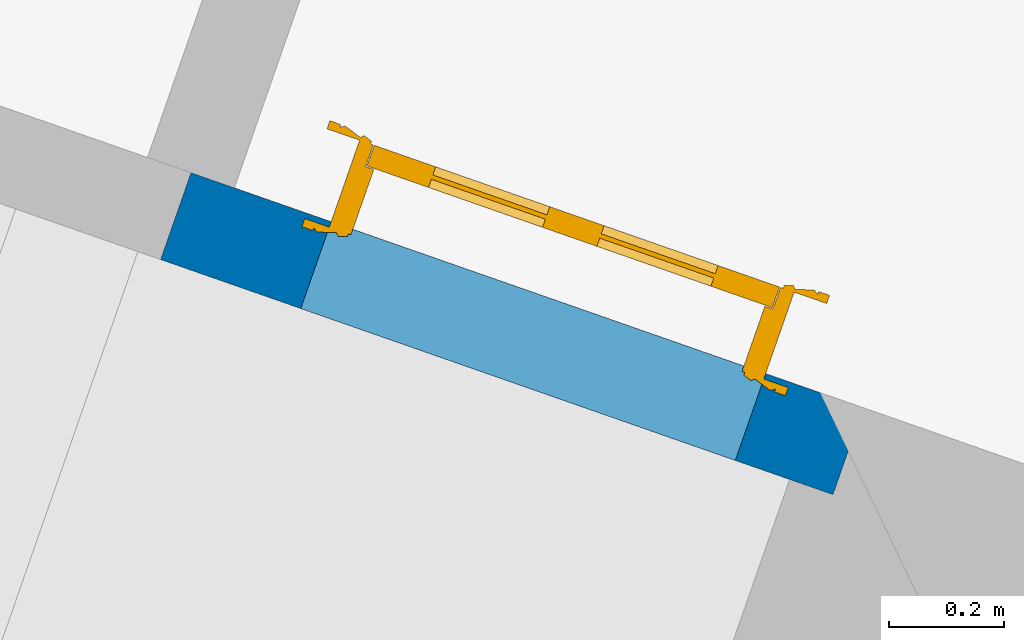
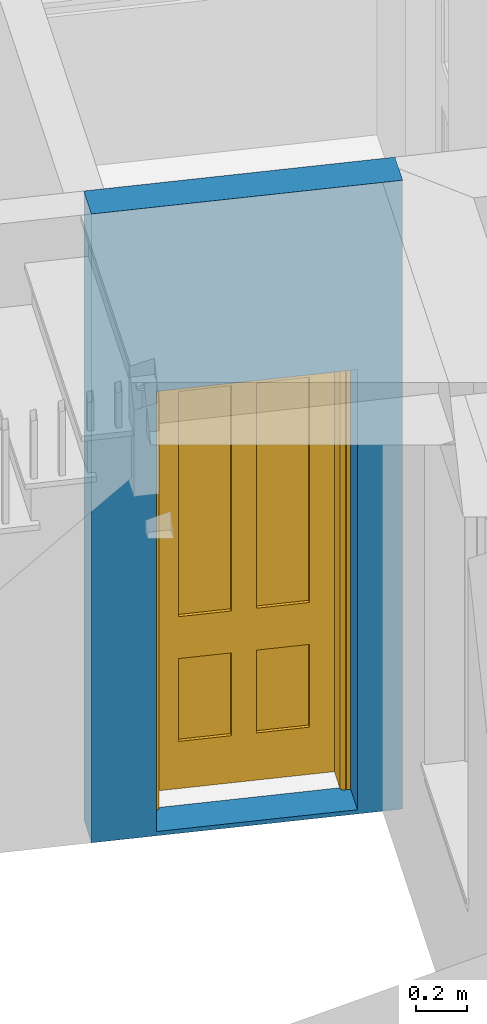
# One storey, part 3 of 6: 1 door, 1 wall, 1 opening.
"""IFC4 building model written with IfcOpenShell, lengths in metres."""

from ifc_helpers import new_model, si_unit, frame, origin, origin_with_axes, place, context, subcontext, project, spatial, polyline, outline, extrude, faceted_brep, source, transform, mapped, material, layer, layer_set, layer_usage, type_object, type_shapes, element, fill, save


model = new_model("IFC4")

# Units and contexts
model_context = context("Model", 3, world=origin_with_axes())
body_context = subcontext(model_context, "Body", "Model", "MODEL_VIEW")
ifc_project = project(units=[si_unit("PLANEANGLEUNIT", "RADIAN"), si_unit("MASSUNIT", "GRAM", prefix="KILO"), si_unit("FORCEUNIT", "NEWTON", prefix="KILO"), si_unit("LENGTHUNIT", "METRE"), si_unit("AREAUNIT", "SQUARE_METRE"), si_unit("VOLUMEUNIT", "CUBIC_METRE")], contexts=[model_context, model_context])

# Sites, building, storey
site_1_placement = place(None, origin_with_axes())
site_1 = spatial("IfcSite", under=ifc_project, at=site_1_placement, Name="Tamar")
site_2_placement = place(site_1_placement, origin_with_axes())
site_2 = spatial("IfcSite", under=site_1, at=site_2_placement, Name="Site plot-15", CompositionType="ELEMENT")
building_placement = place(None, origin_with_axes())
building = spatial("IfcBuilding", under=site_2, at=building_placement, Name="Building plot-15", CompositionType="ELEMENT")
storey_placement = place(None, frame((0.0, 0.0, 29.95), z_axis=(0.0, 0.0, 1.0), x_axis=(1.0, 0.0, 0.0)))
storey = spatial("IfcBuildingStorey", under=building, at=storey_placement, Name="plot-15 1", CompositionType="ELEMENT", Elevation=29.95)

# Wall, opening, door
ifc_material = material(Name="Masonry")
ifc_layer = layer(ifc_material, 0.16, ventilated=False)
ifc_layer_set = layer_set([ifc_layer], Name="interior_0.08_0.08")
ifc_layer_usage = layer_usage(ifc_layer_set, "AXIS2", "POSITIVE", -0.08)
wall_type = type_object("IfcWallType", Name="interior_0.08_0.08", PredefinedType="SOLIDWALL", material=ifc_layer_set)
wall_placement = place(storey_placement, frame((260.340339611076, 305.657992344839, 0.0), z_axis=(0.0, 0.0, 1.0), x_axis=(0.94398045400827, -0.330001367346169, 0.0)))
wall = element("IfcWall", 1, at=wall_placement, inside=storey, type_object=wall_type, material=ifc_layer_usage, Name="interior", context=body_context, shape_type="SweptSolid", body=[
    extrude(outline(polyline([(-4.09848571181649e-15, 0.0799999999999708), (4.10645210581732e-15, -0.0799999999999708), (1.23814757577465, -0.0799999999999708), (1.23814757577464, 0.0799999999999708), (-4.09848571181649e-15, 0.0799999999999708)])), origin_with_axes(), (0.0, 0.0, 1.0), 3.0),
])
opening_placement = place(wall_placement, frame((0.258147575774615, 0.0, 0.0199999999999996)))
opening = element("IfcOpeningElement", 2, at=opening_placement, cuts=wall, Name="My Opening", ObjectType="Opening", context=body_context, shape_type="SweptSolid", body=[
    extrude(outline(polyline([(0.0, -0.100000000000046), (0.800000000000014, -0.100000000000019), (0.800000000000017, 1.10000000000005), (2.99760216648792e-15, 1.10000000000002), (0.0, -0.100000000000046)])), origin_with_axes(), (0.0, 0.0, 1.0), 2.1),
])
door_type = type_object("IfcDoorType", Name="door_inside", OperationType="SINGLE_SWING_LEFT", PredefinedType="NOTDEFINED")
shared_shape = source(origin(), body_context, "Body", "Brep", [
    faceted_brep([(0.773, 0.33, 1.895), (0.66, 0.33, 1.895), (0.66, 0.33, 2.073), (0.773, 0.33, 2.073), (0.773, 0.33, 0.82), (0.66, 0.33, 0.82), (0.45, 0.33, 1.895), (0.45, 0.33, 2.073), (0.773, 0.33, 0.62), (0.66, 0.33, 0.62), (0.66, 0.315, 0.82), (0.66, 0.315, 1.895), (0.45, 0.315, 1.895), (0.35, 0.33, 1.895), (0.35, 0.33, 2.073), (0.773, 0.33, 0.225), (0.66, 0.33, 0.225), (0.45, 0.33, 0.62), (0.45, 0.33, 0.82), (0.45, 0.315, 0.82), (0.35, 0.33, 0.82), (0.14, 0.33, 2.073), (0.14, 0.33, 1.895), (0.773, 0.33, 0.0), (0.66, 0.33, 0.0), (0.66, 0.315, 0.225), (0.66, 0.315, 0.62), (0.45, 0.315, 0.62), (0.35, 0.33, 0.62), (0.35, 0.315, 0.82), (0.35, 0.315, 1.895), (0.14, 0.315, 1.895), (0.027, 0.33, 2.073), (0.027, 0.33, 1.895), (0.773, 0.292, 0.0), (0.66, 0.292, 0.0), (0.45, 0.33, 0.0), (0.45, 0.33, 0.225), (0.45, 0.315, 0.225), (0.35, 0.33, 0.225), (0.14, 0.33, 0.82), (0.14, 0.33, 0.62), (0.14, 0.315, 0.82), (0.027, 0.33, 0.82), (0.773, 0.292, 0.225), (0.66, 0.292, 0.225), (0.45, 0.292, 0.0), (0.35, 0.33, 0.0), (0.35, 0.315, 0.225), (0.35, 0.315, 0.62), (0.14, 0.315, 0.62), (0.027, 0.33, 0.62), (0.773, 0.292, 0.62), (0.66, 0.292, 0.62), (0.45, 0.292, 0.225), (0.35, 0.292, 0.0), (0.14, 0.33, 0.225), (0.14, 0.33, 0.0), (0.14, 0.315, 0.225), (0.027, 0.33, 0.225), (0.773, 0.292, 0.82), (0.66, 0.292, 0.82), (0.66, 0.307, 0.62), (0.66, 0.307, 0.225), (0.45, 0.307, 0.225), (0.35, 0.292, 0.225), (0.14, 0.292, 0.0), (0.027, 0.33, 0.0), (0.773, 0.292, 1.895), (0.66, 0.292, 1.895), (0.45, 0.292, 0.62), (0.45, 0.292, 0.82), (0.45, 0.307, 0.62), (0.35, 0.292, 0.62), (0.14, 0.292, 0.225), (0.027, 0.292, 0.0), (0.773, 0.292, 2.073), (0.66, 0.292, 2.073), (0.66, 0.307, 1.895), (0.66, 0.307, 0.82), (0.45, 0.307, 0.82), (0.35, 0.292, 0.82), (0.35, 0.307, 0.62), (0.35, 0.307, 0.225), (0.14, 0.307, 0.225), (0.027, 0.292, 0.225), (0.45, 0.292, 1.895), (0.45, 0.292, 2.073), (0.45, 0.307, 1.895), (0.35, 0.292, 1.895), (0.14, 0.292, 0.82), (0.14, 0.292, 0.62), (0.14, 0.307, 0.62), (0.027, 0.292, 0.62), (0.35, 0.292, 2.073), (0.35, 0.307, 1.895), (0.35, 0.307, 0.82), (0.14, 0.307, 0.82), (0.027, 0.292, 0.82), (0.14, 0.292, 2.073), (0.14, 0.292, 1.895), (0.14, 0.307, 1.895), (0.027, 0.292, 1.895), (0.027, 0.292, 2.073), (0.02, 0.335, 0.0), (0.005, 0.34, 0.0), (0.005, 0.34, 2.095), (0.02, 0.335, 2.08), (0.02, 0.33, 0.0), (0.0, 0.335, 0.0), (0.0, 0.335, 2.1), (0.795, 0.34, 2.095), (0.78, 0.335, 2.08), (0.02, 0.33, 2.08), (0.0, 0.33, 0.0), (-0.032, 0.345, 0.0), (-0.032, 0.345, 2.132), (0.8, 0.335, 2.1), (0.795, 0.34, 0.0), (0.78, 0.335, 0.0), (0.78, 0.33, 2.08), (0.04, 0.29, 0.0), (0.025, 0.29, 0.0), (0.025, 0.29, 2.075), (0.04, 0.29, 2.06), (-0.04, 0.34, 0.0), (-0.04, 0.34, 2.14), (0.832, 0.345, 2.132), (0.8, 0.335, 0.0), (0.78, 0.33, 0.0), (0.8, 0.33, 0.0), (0.86, 0.33, 0.0), (0.86, 0.33, 2.16), (0.8, 0.33, 2.1), (-0.06, 0.33, 2.16), (0.0, 0.33, 2.1), (-0.06, 0.33, 0.0), (-0.04, 0.345, 0.0), (-0.04, 0.345, 2.14), (0.84, 0.34, 2.14), (0.832, 0.345, 0.0), (0.84, 0.34, 0.0), (0.86, 0.345, 0.0), (0.86, 0.345, 2.16), (-0.06, 0.345, 2.16), (-0.06, 0.345, 0.0), (0.84, 0.345, 0.0), (0.84, 0.345, 2.14), (-0.025, 0.155, 0.0), (-0.025, 0.16, 0.0), (-0.025, 0.16, 2.125), (-0.025, 0.155, 2.125), (-0.017, 0.155, 0.0), (-0.017, 0.155, 2.117), (0.825, 0.16, 2.125), (0.825, 0.155, 2.125), (0.825, 0.155, 0.0), (0.845, 0.155, 0.0), (-0.045, 0.155, 2.145), (-0.045, 0.155, 0.0), (0.845, 0.155, 2.145), (0.015, 0.165, 0.0), (0.015, 0.165, 2.085), (0.817, 0.155, 2.117), (0.825, 0.16, 0.0), (0.845, 0.17, 0.0), (0.845, 0.17, 2.145), (-0.045, 0.17, 2.145), (-0.045, 0.17, 0.0), (0.02, 0.16, 0.0), (0.02, 0.16, 2.08), (0.785, 0.165, 2.085), (0.817, 0.155, 0.0), (0.8, 0.17, 0.0), (0.8, 0.17, 2.1), (0.0, 0.17, 2.1), (0.0, 0.17, 0.0), (0.035, 0.165, 0.0), (0.035, 0.165, 2.065), (0.78, 0.16, 2.08), (0.785, 0.165, 0.0), (0.775, 0.29, 2.075), (0.76, 0.29, 2.06), (0.035, 0.17, 2.065), (0.035, 0.17, 0.0), (0.765, 0.165, 2.065), (0.78, 0.16, 0.0), (0.765, 0.17, 0.0), (0.765, 0.17, 2.065), (0.765, 0.165, 0.0), (0.04, 0.17, 2.06), (0.04, 0.17, 0.0), (0.76, 0.17, 2.06), (0.76, 0.17, 0.0), (0.76, 0.29, 0.0), (0.775, 0.29, 0.0), (0.025, 0.33, 0.0), (0.025, 0.33, 2.075), (0.775, 0.33, 0.0), (0.775, 0.33, 2.075)], [[[0, 1, 2, 3]], [[1, 0, 4, 5]], [[1, 6, 7, 2]], [[8, 9, 5, 4]], [[1, 5, 10, 11]], [[6, 1, 11, 12]], [[6, 13, 14, 7]], [[15, 16, 9, 8]], [[9, 17, 18, 5]], [[5, 18, 19, 10]], [[10, 19, 12, 11]], [[18, 6, 12, 19]], [[18, 20, 13, 6]], [[21, 14, 13, 22]], [[23, 24, 16, 15]], [[9, 16, 25, 26]], [[17, 9, 26, 27]], [[17, 28, 20, 18]], [[13, 20, 29, 30]], [[22, 13, 30, 31]], [[32, 21, 22, 33]], [[34, 35, 24, 23]], [[24, 36, 37, 16]], [[16, 37, 38, 25]], [[25, 38, 27, 26]], [[37, 17, 27, 38]], [[37, 39, 28, 17]], [[40, 20, 28, 41]], [[20, 40, 42, 29]], [[31, 30, 29, 42]], [[40, 22, 31, 42]], [[33, 22, 40, 43]], [[35, 34, 44, 45]], [[35, 46, 36, 24]], [[36, 47, 39, 37]], [[28, 39, 48, 49]], [[41, 28, 49, 50]], [[43, 40, 41, 51]], [[45, 44, 52, 53]], [[46, 35, 45, 54]], [[46, 55, 47, 36]], [[56, 39, 47, 57]], [[39, 56, 58, 48]], [[50, 49, 48, 58]], [[56, 41, 50, 58]], [[51, 41, 56, 59]], [[53, 52, 60, 61]], [[45, 53, 62, 63]], [[54, 45, 63, 64]], [[55, 46, 54, 65]], [[55, 66, 57, 47]], [[59, 56, 57, 67]], [[61, 60, 68, 69]], [[70, 53, 61, 71]], [[53, 70, 72, 62]], [[72, 64, 63, 62]], [[70, 54, 64, 72]], [[65, 54, 70, 73]], [[65, 74, 66, 55]], [[67, 57, 66, 75]], [[69, 68, 76, 77]], [[61, 69, 78, 79]], [[71, 61, 79, 80]], [[73, 70, 71, 81]], [[65, 73, 82, 83]], [[74, 65, 83, 84]], [[74, 85, 75, 66]], [[86, 69, 77, 87]], [[69, 86, 88, 78]], [[88, 80, 79, 78]], [[86, 71, 80, 88]], [[81, 71, 86, 89]], [[73, 81, 90, 91]], [[73, 91, 92, 82]], [[83, 82, 92, 84]], [[91, 74, 84, 92]], [[91, 93, 85, 74]], [[89, 86, 87, 94]], [[81, 89, 95, 96]], [[90, 81, 96, 97]], [[90, 98, 93, 91]], [[94, 99, 100, 89]], [[89, 100, 101, 95]], [[101, 97, 96, 95]], [[100, 90, 97, 101]], [[100, 102, 98, 90]], [[99, 103, 102, 100]], [[32, 103, 99, 21]], [[102, 103, 32, 33]], [[98, 102, 33, 43]], [[21, 99, 94, 14]], [[94, 87, 7, 14]], [[7, 87, 77, 2]], [[76, 3, 2, 77]], [[43, 51, 93, 98]], [[51, 59, 85, 93]], [[67, 75, 85, 59]], [[34, 23, 15, 44]], [[44, 15, 8, 52]], [[52, 8, 4, 60]], [[0, 68, 60, 4]], [[0, 3, 76, 68]], [[104, 105, 106, 107]], [[104, 108, 109, 105]], [[105, 109, 110, 106]], [[107, 106, 111, 112]], [[107, 113, 108, 104]], [[114, 109, 108]], [[109, 115, 116, 110]], [[106, 110, 117, 111]], [[112, 111, 118, 119]], [[113, 107, 112, 120]], [[121, 122, 123, 124]], [[115, 109, 114, 125]], [[115, 125, 126, 116]], [[110, 116, 127, 117]], [[111, 117, 128, 118]], [[118, 128, 129, 119]], [[120, 112, 119, 129]], [[130, 129, 128]], [[130, 131, 132, 133]], [[133, 132, 134, 135]], [[135, 134, 136, 114]], [[136, 125, 114]], [[125, 137, 138, 126]], [[116, 126, 139, 127]], [[117, 127, 140, 128]], [[141, 130, 128, 140]], [[131, 130, 141]], [[131, 142, 143, 132]], [[132, 143, 144, 134]], [[134, 144, 145, 136]], [[137, 125, 136, 145]], [[143, 142, 146]], [[143, 146, 147]], [[137, 145, 144]], [[143, 147, 138]], [[138, 137, 144]], [[143, 138, 144]], [[126, 138, 147, 139]], [[127, 139, 141, 140]], [[142, 131, 141, 146]], [[139, 147, 146, 141]], [[148, 149, 150, 151]], [[149, 152, 153, 150]], [[151, 150, 154, 155]], [[155, 156, 157]], [[158, 159, 148]], [[158, 148, 151]], [[155, 157, 160]], [[158, 151, 155]], [[155, 160, 158]], [[152, 161, 162, 153]], [[150, 153, 163, 154]], [[155, 154, 164, 156]], [[156, 164, 165, 157]], [[157, 165, 166, 160]], [[160, 166, 167, 158]], [[158, 167, 168, 159]], [[161, 169, 170, 162]], [[153, 162, 171, 163]], [[154, 163, 172, 164]], [[165, 164, 173]], [[165, 173, 174, 166]], [[166, 174, 175, 167]], [[167, 175, 176, 168]], [[169, 177, 178, 170]], [[162, 170, 179, 171]], [[163, 171, 180, 172]], [[172, 180, 173, 164]], [[124, 123, 181, 182]], [[183, 178, 177, 184]], [[170, 178, 185, 179]], [[171, 179, 186, 180]], [[187, 173, 180]], [[185, 188, 187, 189]], [[188, 185, 178, 183]], [[179, 185, 189, 186]], [[189, 187, 180, 186]], [[190, 183, 184, 191]], [[192, 188, 183, 190]], [[191, 184, 122, 121]], [[124, 190, 191, 121]], [[193, 187, 188, 192]], [[182, 192, 190, 124]], [[184, 176, 122]], [[194, 195, 187, 193]], [[192, 182, 194, 193]], [[161, 176, 184]], [[114, 108, 122, 176]], [[173, 187, 195]], [[152, 149, 176, 161]], [[169, 161, 184, 177]], [[196, 122, 108]], [[176, 175, 135, 114]], [[173, 195, 129, 130]], [[176, 149, 168]], [[123, 122, 196, 197]], [[196, 108, 113, 197]], [[175, 174, 133, 135]], [[198, 129, 195]], [[133, 174, 173, 130]], [[159, 168, 149, 148]], [[181, 123, 197, 199]], [[197, 113, 120, 199]], [[199, 120, 129, 198]], [[195, 181, 199, 198]], [[195, 194, 182, 181]]]),
])
type_shapes(door_type, [shared_shape])
door_placement = place(storey_placement, frame((260.551025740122, 305.478405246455, 0.0199999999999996), z_axis=(0.0, 0.0, 1.0), x_axis=(0.755184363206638, -0.264001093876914, 0.0)))
door = element("IfcDoor", 3, at=door_placement, inside=storey, type_object=door_type, Name="bedroom inside door", OverallHeight=2.1, OverallWidth=0.8, context=body_context, shape_type="MappedRepresentation", body=[
    mapped(shared_shape, transform((0.0, 0.0, 0.0), scale=1.0)),
])
fill(opening, door)

save(model, "model.ifc")
